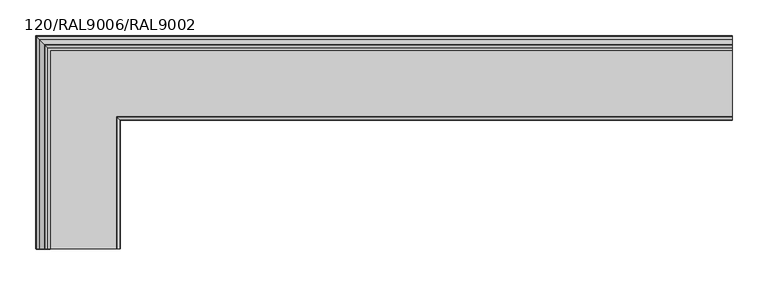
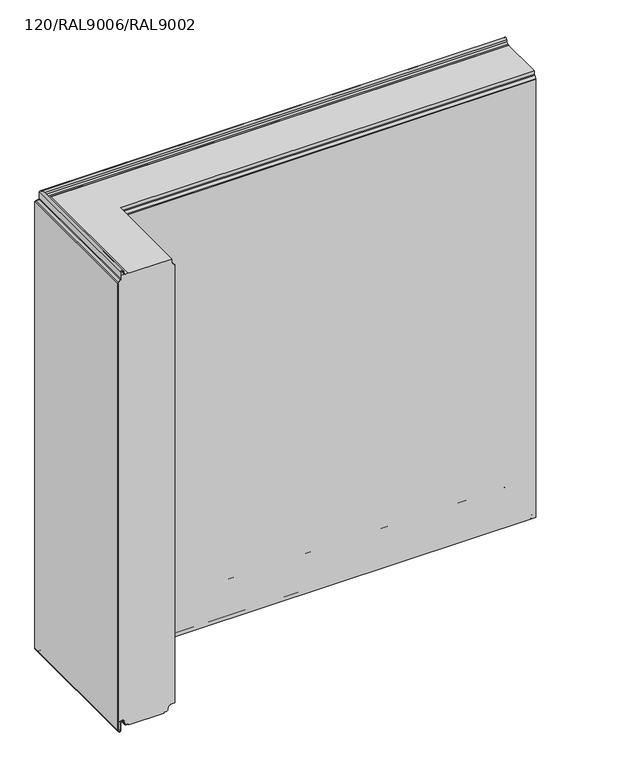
"""IFC4 building model written with IfcOpenShell, lengths in millimetres: plate geometry, TR_C_H_FTV_Corner_Tr_B : 120/RAL9006/RAL9002."""

from ifc_helpers import new_model, si_unit, frame, origin, place, context, project, spatial, polyline, circle_curve, ellipse_curve, source, transform, mapped, element, save
from ifc_brep_helpers import plane_surface, cylinder_surface, revolved_surface, advanced_brep


def plate_120_ral9006_ral9002_347d5f76(model_context):
    return source(origin(), model_context, "Body", "AdvancedBrep", [
        advanced_brep(
        [(490.0, -6.8, 1000.0), (490.0, -113.2, 1000.0), (490.0, -113.2, 992.6000012), (490.0, -114.1665476, 990.2665488), (490.0, -118.5556349, 985.8774615), (490.0, -119.2, 984.3218266), (490.0, -119.2, 14.4000012), (490.0, -110.55, 14.4000012), (490.0, -106.364567, 10.8880059), (490.0, -105.2977418, 4.837739), (490.0, -102.3925589, 2.4000012), (490.0, -96.3, 2.4000012), (490.0, -96.3, 0.0), (490.0, -23.7, 0.0), (490.0, -23.7, 2.4000012), (490.0, -17.6074411, 2.4000012), (490.0, -14.7022582, 4.837739), (490.0, -13.635433, 10.8880059), (490.0, -9.45, 14.4000012), (490.0, -0.8, 14.4000012), (490.0, -0.8, 984.3218266), (490.0, -1.4443651, 985.8774615), (490.0, -5.8334524, 990.2665488), (490.0, -6.8, 992.6000012), (-483.2, -6.8, 1000.0), (-483.2, -300.0, 1000.0), (-376.8, -300.0, 1000.0), (-376.8, -113.2, 1000.0), (-376.8, -113.2, 992.6000012), (-375.8334524, -114.1665476, 990.2665488), (-371.4443651, -118.5556349, 985.8774615), (-370.8, -119.2, 984.3218266), (-370.8, -119.2, 14.4000012), (-370.8, -300.0, 14.4000012), (-379.45, -300.0, 14.4000012), (-379.45, -110.55, 14.4000012), (-383.635433, -106.364567, 10.8880059), (-384.7022582, -105.2977418, 4.837739), (-387.6074411, -102.3925589, 2.4000012), (-387.6074411, -300.0, 2.4000012), (-393.7, -300.0, 2.4000012), (-393.7, -96.3, 2.4000012), (-393.7, -96.3, 0.0), (-393.7, -300.0, 0.0), (-466.3, -300.0, 0.0), (-466.3, -23.7, 0.0), (-466.3, -23.7, 2.4000012), (-466.3, -300.0, 2.4000012), (-472.3925589, -300.0, 2.4000012), (-472.3925589, -17.6074411, 2.4000012), (-475.2977418, -14.7022582, 4.837739), (-476.364567, -13.635433, 10.8880059), (-480.55, -9.45, 14.4000012), (-480.55, -300.0, 14.4000012), (-489.2, -300.0, 14.4000012), (-489.2, -0.8, 14.4000012), (-489.2, -0.8, 984.3218266), (-488.5556349, -1.4443651, 985.8774615), (-484.1665476, -5.8334524, 990.2665488), (-483.2, -6.8, 992.6000012), (-483.2, -300.0, 992.6000012), (-484.1665476, -300.0, 990.2665488), (-488.5556349, -300.0, 985.8774615), (-489.2, -300.0, 984.3218266), (-476.364567, -300.0, 10.8880059), (-475.2977418, -300.0, 4.837739), (-384.7022582, -300.0, 4.837739), (-383.635433, -300.0, 10.8880059), (-370.8, -300.0, 984.3218266), (-371.4443651, -300.0, 985.8774615), (-375.8334524, -300.0, 990.2665488), (-376.8, -300.0, 992.6000012)],
        [
            (0, 1),
            (1, 2),
            (2, 3, circle_curve(frame((490.0, -116.5, 992.6000012), z_axis=(-1.0, 0.0, 0.0), x_axis=(0.0, -1.0, 0.0)), 3.3)),
            (3, 4),
            (4, 5, circle_curve(frame((490.0, -117.0, 984.3218266), z_axis=(1.0, 0.0, 0.0), x_axis=(0.0, -1.0, 0.0)), 2.2)),
            (5, 6),
            (6, 7),
            (7, 8, circle_curve(frame((490.0, -110.55, 10.1500012), z_axis=(-1.0, 0.0, 0.0), x_axis=(0.0, -1.0, 0.0)), 4.25)),
            (8, 9),
            (9, 10, circle_curve(frame((490.0, -102.3925589, 5.3500012), z_axis=(1.0, 0.0, 0.0), x_axis=(0.0, -1.0, 0.0)), 2.95)),
            (10, 11),
            (11, 12),
            (12, 13),
            (13, 14),
            (14, 15),
            (15, 16, circle_curve(frame((490.0, -17.6074411, 5.3500012), z_axis=(1.0, 0.0, 0.0), x_axis=(0.0, -1.0, 0.0)), 2.95)),
            (16, 17),
            (17, 18, circle_curve(frame((490.0, -9.45, 10.1500012), z_axis=(-1.0, 0.0, 0.0), x_axis=(0.0, -1.0, 0.0)), 4.25)),
            (18, 19),
            (19, 20),
            (20, 21, circle_curve(frame((490.0, -3.0, 984.3218266), z_axis=(1.0, 0.0, 0.0), x_axis=(0.0, -1.0, 0.0)), 2.2)),
            (21, 22),
            (22, 23, circle_curve(frame((490.0, -3.5, 992.6000012), z_axis=(-1.0, 0.0, 0.0), x_axis=(0.0, -1.0, 0.0)), 3.3)),
            (23, 0),
            (0, 24),
            (24, 25),
            (25, 26),
            (26, 27),
            (27, 1),
            (27, 28),
            (28, 2),
            (28, 29, ellipse_curve(frame((-373.5, -116.5, 992.6000012), z_axis=(-0.7071067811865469, -0.7071067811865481, 0.0), x_axis=(-0.7071067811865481, 0.7071067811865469, 0.0)), 4.6669048, 3.3)),
            (29, 3),
            (29, 30),
            (30, 4),
            (30, 31, ellipse_curve(frame((-373.0, -117.0, 984.3218266), z_axis=(0.7071067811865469, 0.7071067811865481, 0.0), x_axis=(0.7071067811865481, -0.7071067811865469, 0.0)), 3.1112698, 2.2)),
            (31, 5),
            (31, 32),
            (32, 6),
            (32, 33),
            (33, 34),
            (34, 35),
            (35, 7),
            (35, 36, ellipse_curve(frame((-379.45, -110.55, 10.1500012), z_axis=(-0.7071067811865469, -0.7071067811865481, 0.0), x_axis=(-0.7071067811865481, 0.7071067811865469, 0.0)), 6.0104076, 4.25)),
            (36, 8),
            (36, 37),
            (37, 9),
            (37, 38, ellipse_curve(frame((-387.6074411, -102.3925589, 5.3500012), z_axis=(0.7071067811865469, 0.7071067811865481, 0.0), x_axis=(0.7071067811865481, -0.7071067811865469, 0.0)), 4.17193, 2.95)),
            (38, 10),
            (38, 39),
            (39, 40),
            (40, 41),
            (41, 11),
            (41, 42),
            (42, 12),
            (42, 43),
            (43, 44),
            (44, 45),
            (45, 13),
            (45, 46),
            (46, 14),
            (46, 47),
            (47, 48),
            (48, 49),
            (49, 15),
            (49, 50, ellipse_curve(frame((-472.3925589, -17.6074411, 5.3500012), z_axis=(0.7071067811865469, 0.7071067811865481, 0.0), x_axis=(0.7071067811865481, -0.7071067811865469, 0.0)), 4.17193, 2.95)),
            (50, 16),
            (50, 51),
            (51, 17),
            (51, 52, ellipse_curve(frame((-480.55, -9.45, 10.1500012), z_axis=(-0.7071067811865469, -0.7071067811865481, 0.0), x_axis=(-0.7071067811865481, 0.7071067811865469, 0.0)), 6.0104076, 4.25)),
            (52, 18),
            (52, 53),
            (53, 54),
            (54, 55),
            (55, 19),
            (55, 56),
            (56, 20),
            (56, 57, ellipse_curve(frame((-487.0, -3.0, 984.3218266), z_axis=(0.7071067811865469, 0.7071067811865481, 0.0), x_axis=(0.7071067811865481, -0.7071067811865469, 0.0)), 3.1112698, 2.2)),
            (57, 21),
            (57, 58),
            (58, 22),
            (58, 59, ellipse_curve(frame((-486.5, -3.5, 992.6000012), z_axis=(-0.7071067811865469, -0.7071067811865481, 0.0), x_axis=(-0.7071067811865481, 0.7071067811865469, 0.0)), 4.6669048, 3.3)),
            (59, 23),
            (59, 24),
            (25, 60),
            (60, 61, circle_curve(frame((-486.5, -300.0, 992.6000012), z_axis=(0.0, 1.0, 0.0), x_axis=(1.0, 0.0, 0.0)), 3.3)),
            (61, 62),
            (62, 63, circle_curve(frame((-487.0, -300.0, 984.3218266), z_axis=(0.0, -1.0, 0.0), x_axis=(1.0, 0.0, 0.0)), 2.2)),
            (63, 54),
            (53, 64, circle_curve(frame((-480.55, -300.0, 10.1500012), z_axis=(0.0, 1.0, 0.0), x_axis=(1.0, 0.0, 0.0)), 4.25)),
            (64, 65),
            (65, 48, circle_curve(frame((-472.3925589, -300.0, 5.3500012), z_axis=(0.0, -1.0, 0.0), x_axis=(1.0, 0.0, 0.0)), 2.95)),
            (47, 44),
            (43, 40),
            (39, 66, circle_curve(frame((-387.6074411, -300.0, 5.3500012), z_axis=(0.0, -1.0, 0.0), x_axis=(1.0, 0.0, 0.0)), 2.95)),
            (66, 67),
            (67, 34, circle_curve(frame((-379.45, -300.0, 10.1500012), z_axis=(0.0, 1.0, 0.0), x_axis=(1.0, 0.0, 0.0)), 4.25)),
            (33, 68),
            (68, 69, circle_curve(frame((-373.0, -300.0, 984.3218266), z_axis=(0.0, -1.0, 0.0), x_axis=(1.0, 0.0, 0.0)), 2.2)),
            (69, 70),
            (70, 71, circle_curve(frame((-373.5, -300.0, 992.6000012), z_axis=(0.0, 1.0, 0.0), x_axis=(1.0, 0.0, 0.0)), 3.3)),
            (71, 26),
            (71, 28),
            (70, 29),
            (69, 30),
            (68, 31),
            (67, 36),
            (66, 37),
            (65, 50),
            (64, 51),
            (63, 56),
            (62, 57),
            (61, 58),
            (60, 59),
        ],
        [
            plane_surface(frame((490.0, 0.0, 0.0), z_axis=(1.0, 0.0, 0.0), x_axis=(0.0, 0.0, 1.0))),
            plane_surface(frame((490.0, -6.8, 1000.0), z_axis=(0.0, 0.0, 1.0), x_axis=(-1.0, 0.0, 0.0))),
            plane_surface(frame((490.0, -113.2, 1000.0), z_axis=(0.0, -1.0, 0.0), x_axis=(-1.0, 0.0, 0.0))),
            revolved_surface(polyline([(-376.800000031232, -119.8, 992.6000012), (490.0, -119.8, 992.6000012)]), (490.0, -116.5, 992.6000012), (-1.0, 0.0, 0.0)),
            plane_surface(frame((490.0, -114.1665476, 990.2665488), z_axis=(0.0, -0.707106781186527, 0.707106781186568), x_axis=(-1.0, 0.0, 0.0))),
            cylinder_surface(frame((490.0, -117.0, 984.3218266), z_axis=(1.0, 0.0, 0.0), x_axis=(0.0, -1.0, 0.0)), 2.2),
            plane_surface(frame((490.0, -119.2, 984.3218266), z_axis=(0.0, -1.0, 0.0), x_axis=(-1.0, 0.0, 0.0))),
            plane_surface(frame((490.0, -119.2, 14.4000012), z_axis=(0.0, 0.0, -1.0), x_axis=(-1.0, 0.0, 0.0))),
            revolved_surface(polyline([(-383.6999999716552, -114.8, 10.1500012), (490.0, -114.8, 10.1500012)]), (490.0, -110.55, 10.1500012), (-1.0, 0.0, 0.0)),
            plane_surface(frame((490.0, -106.364567, 10.8880059), z_axis=(0.0, -0.9848077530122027, -0.17364817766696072), x_axis=(-1.0, 0.0, 0.0))),
            cylinder_surface(frame((490.0, -102.3925589, 5.3500012), z_axis=(1.0, 0.0, 0.0), x_axis=(0.0, -1.0, 0.0)), 2.95),
            plane_surface(frame((490.0, -102.3925589, 2.4000012), z_axis=(0.0, 0.0, -1.0), x_axis=(-1.0, 0.0, 0.0))),
            plane_surface(frame((490.0, -96.3, 2.4000012), z_axis=(0.0, -1.0, 0.0), x_axis=(-1.0, 0.0, 0.0))),
            plane_surface(frame((490.0, -96.3, 0.0), z_axis=(0.0, 0.0, -1.0), x_axis=(-1.0, 0.0, 0.0))),
            plane_surface(frame((490.0, -23.7, 0.0), z_axis=(0.0, 1.0, 0.0), x_axis=(-1.0, 0.0, 0.0))),
            plane_surface(frame((490.0, -23.7, 2.4000012), z_axis=(0.0, 0.0, -1.0), x_axis=(-1.0, 0.0, 0.0))),
            cylinder_surface(frame((490.0, -17.6074411, 5.3500012), z_axis=(1.0, 0.0, 0.0), x_axis=(0.0, -1.0, 0.0)), 2.95),
            plane_surface(frame((490.0, -14.7022582, 4.837739), z_axis=(0.0, 0.9848077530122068, -0.1736481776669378), x_axis=(-1.0, 0.0, 0.0))),
            revolved_surface(polyline([(-484.7999999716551, -13.7, 10.1500012), (490.0, -13.7, 10.1500012)]), (490.0, -9.45, 10.1500012), (-1.0, 0.0, 0.0)),
            plane_surface(frame((490.0, -9.45, 14.4000012), z_axis=(0.0, 0.0, -1.0), x_axis=(-1.0, 0.0, 0.0))),
            plane_surface(frame((490.0, -0.8, 14.4000012), z_axis=(0.0, 1.0, 0.0), x_axis=(-1.0, 0.0, 0.0))),
            cylinder_surface(frame((490.0, -3.0, 984.3218266), z_axis=(1.0, 0.0, 0.0), x_axis=(0.0, -1.0, 0.0)), 2.2),
            plane_surface(frame((490.0, -1.4443651, 985.8774615), z_axis=(0.0, 0.7071067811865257, 0.7071067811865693), x_axis=(-1.0, 0.0, 0.0))),
            revolved_surface(polyline([(-489.800000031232, -6.8, 992.6000012), (490.0, -6.8, 992.6000012)]), (490.0, -3.5, 992.6000012), (-1.0, 0.0, 0.0)),
            plane_surface(frame((490.0, -6.8, 992.6000012), z_axis=(0.0, 1.0, 0.0), x_axis=(-1.0, 0.0, 0.0))),
            plane_surface(frame((-490.0, -300.0, 0.0), z_axis=(0.0, -1.0, 0.0), x_axis=(0.0, 0.0, 1.0))),
            plane_surface(frame((-376.8, -113.2, 1000.0), z_axis=(1.0, 0.0, 0.0), x_axis=(0.0, -1.0, 0.0))),
            revolved_surface(polyline([(-370.2, -300.0, 992.6000012), (-370.2, -113.19999996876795, 992.6000012)]), (-373.5, 0.0, 992.6000012), (0.0, -1.0, 0.0)),
            plane_surface(frame((-375.8334524, -114.1665476, 990.2665488), z_axis=(0.707106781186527, 0.0, 0.707106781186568), x_axis=(0.0, -1.0, 0.0))),
            cylinder_surface(frame((-373.0, 0.0, 984.3218266), z_axis=(0.0, 1.0, 0.0), x_axis=(1.0, 0.0, 0.0)), 2.2),
            plane_surface(frame((-370.8, -119.2, 984.3218266), z_axis=(1.0, 0.0, 0.0), x_axis=(0.0, -1.0, 0.0))),
            revolved_surface(polyline([(-375.2, -300.0, 10.1500012), (-375.2, -106.30000002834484, 10.1500012)]), (-379.45, 0.0, 10.1500012), (0.0, -1.0, 0.0)),
            plane_surface(frame((-383.635433, -106.364567, 10.8880059), z_axis=(0.9848077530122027, 0.0, -0.17364817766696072), x_axis=(0.0, -1.0, 0.0))),
            cylinder_surface(frame((-387.6074411, 0.0, 5.3500012), z_axis=(0.0, 1.0, 0.0), x_axis=(1.0, 0.0, 0.0)), 2.95),
            plane_surface(frame((-393.7, -96.3, 2.4000012), z_axis=(1.0, 0.0, 0.0), x_axis=(0.0, -1.0, 0.0))),
            plane_surface(frame((-466.3, -23.7, 0.0), z_axis=(-1.0, 0.0, 0.0), x_axis=(0.0, -1.0, 0.0))),
            cylinder_surface(frame((-472.3925589, 0.0, 5.3500012), z_axis=(0.0, 1.0, 0.0), x_axis=(1.0, 0.0, 0.0)), 2.95),
            plane_surface(frame((-475.2977418, -14.7022582, 4.837739), z_axis=(-0.9848077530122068, 0.0, -0.1736481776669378), x_axis=(0.0, -1.0, 0.0))),
            revolved_surface(polyline([(-476.3, -300.0, 10.1500012), (-476.3, -5.200000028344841, 10.1500012)]), (-480.55, 0.0, 10.1500012), (0.0, -1.0, 0.0)),
            plane_surface(frame((-489.2, -0.8, 14.4000012), z_axis=(-1.0, 0.0, 0.0), x_axis=(0.0, -1.0, 0.0))),
            cylinder_surface(frame((-487.0, 0.0, 984.3218266), z_axis=(0.0, 1.0, 0.0), x_axis=(1.0, 0.0, 0.0)), 2.2),
            plane_surface(frame((-488.5556349, -1.4443651, 985.8774615), z_axis=(-0.7071067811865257, 0.0, 0.7071067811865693), x_axis=(0.0, -1.0, 0.0))),
            revolved_surface(polyline([(-483.2, -300.0, 992.6000012), (-483.2, -0.19999996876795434, 992.6000012)]), (-486.5, 0.0, 992.6000012), (0.0, -1.0, 0.0)),
            plane_surface(frame((-483.2, -6.8, 992.6000012), z_axis=(-1.0, 0.0, 0.0), x_axis=(0.0, -1.0, 0.0))),
        ],
        [
            (0, [[1, 2, 3, 4, 5, 6, 7, 8, 9, 10, 11, 12, 13, 14, 15, 16, 17, 18, 19, 20, 21, 22, 23, 24]]),
            (1, [[-1, 25, 26, 27, 28, 29]]),
            (2, [[-2, -29, 30, 31]]),
            (3, [[-3, -31, 32, 33]]),
            (4, [[-4, -33, 34, 35]]),
            (5, [[-5, -35, 36, 37]]),
            (6, [[-6, -37, 38, 39]]),
            (7, [[-7, -39, 40, 41, 42, 43]]),
            (8, [[-8, -43, 44, 45]]),
            (9, [[-9, -45, 46, 47]]),
            (10, [[-10, -47, 48, 49]]),
            (11, [[-11, -49, 50, 51, 52, 53]]),
            (12, [[-12, -53, 54, 55]]),
            (13, [[-13, -55, 56, 57, 58, 59]]),
            (14, [[-14, -59, 60, 61]]),
            (15, [[-15, -61, 62, 63, 64, 65]]),
            (16, [[-16, -65, 66, 67]]),
            (17, [[-17, -67, 68, 69]]),
            (18, [[-18, -69, 70, 71]]),
            (19, [[-19, -71, 72, 73, 74, 75]]),
            (20, [[-20, -75, 76, 77]]),
            (21, [[-21, -77, 78, 79]]),
            (22, [[-22, -79, 80, 81]]),
            (23, [[-23, -81, 82, 83]]),
            (24, [[-24, -83, 84, -25]]),
            (25, [[85, 86, 87, 88, 89, -73, 90, 91, 92, -63, 93, -57, 94, -51, 95, 96, 97, -41, 98, 99, 100, 101, 102, -27]]),
            (26, [[-30, -28, -102, 103]]),
            (27, [[-32, -103, -101, 104]]),
            (28, [[-34, -104, -100, 105]]),
            (29, [[-36, -105, -99, 106]]),
            (30, [[-38, -106, -98, -40]]),
            (31, [[-44, -42, -97, 107]]),
            (32, [[-46, -107, -96, 108]]),
            (33, [[-48, -108, -95, -50]]),
            (34, [[-54, -52, -94, -56]]),
            (35, [[-60, -58, -93, -62]]),
            (36, [[-66, -64, -92, 109]]),
            (37, [[-68, -109, -91, 110]]),
            (38, [[-70, -110, -90, -72]]),
            (39, [[-76, -74, -89, 111]]),
            (40, [[-78, -111, -88, 112]]),
            (41, [[-80, -112, -87, 113]]),
            (42, [[-82, -113, -86, 114]]),
            (43, [[-84, -114, -85, -26]]),
        ],
    ),
        advanced_brep(
        [(490.0, -16.8869672, 999.8000012), (490.0, -12.4060919, 1003.559902), (490.0, -11.662779, 1007.7754392), (490.0, -6.8, 1007.3500012), (490.0, -6.8, 992.6000012), (490.0, -5.8334524, 990.2665488), (490.0, -1.4443651, 985.8774615), (490.0, -0.8, 984.3218266), (490.0, -0.8, -5.018628), (490.0, -1.3711418, -6.3974862), (490.0, -3.2368272, -8.2631716), (490.0, -5.2, -7.4499988), (490.0, -5.2, 10.1500012), (490.0, -13.635433, 10.8880059), (490.0, -14.7022582, 4.837739), (490.0, -17.6074411, 2.4000012), (490.0, -21.0, 2.4000012), (490.0, -21.0, 1.6000012), (490.0, -17.6074411, 1.6000012), (490.0, -13.914412, 4.6988205), (490.0, -12.8475867, 10.7490874), (490.0, -6.0, 10.1500012), (490.0, -6.0, -7.4499988), (490.0, -2.6711418, -8.8288571), (490.0, -0.8054564, -6.9631716), (490.0, 0.0, -5.018628), (490.0, 0.0, 984.3218266), (490.0, -0.8786797, 986.4431469), (490.0, -5.267767, 990.8322342), (490.0, -6.0, 992.6000012), (490.0, -6.0, 1007.3500012), (490.0, -12.4506252, 1007.9143577), (490.0, -13.1939382, 1003.6988205), (490.0, -16.8869672, 1000.6000012), (490.0, -21.0, 1000.6000012), (490.0, -21.0, 999.8000012), (-473.1130328, -16.8869672, 999.8000012), (-477.5939081, -12.4060919, 1003.559902), (-478.337221, -11.662779, 1007.7754392), (-483.2, -6.8, 1007.3500012), (-483.2, -6.8, 992.6000012), (-484.1665476, -5.8334524, 990.2665488), (-488.5556349, -1.4443651, 985.8774615), (-489.2, -0.8, 984.3218266), (-489.2, -0.8, -5.018628), (-488.6288582, -1.3711418, -6.3974862), (-486.7631728, -3.2368272, -8.2631716), (-484.8, -5.2, -7.4499988), (-484.8, -5.2, 10.1500012), (-476.364567, -13.635433, 10.8880059), (-475.2977418, -14.7022582, 4.837739), (-472.3925589, -17.6074411, 2.4000012), (-472.3925589, -300.0, 2.4000012), (-469.0, -300.0, 2.4000012), (-469.0, -21.0, 2.4000012), (-469.0, -21.0, 1.6000012), (-469.0, -300.0, 1.6000012), (-472.3925589, -300.0, 1.6000012), (-472.3925589, -17.6074411, 1.6000012), (-476.085588, -13.914412, 4.6988205), (-477.1524133, -12.8475867, 10.7490874), (-484.0, -6.0, 10.1500012), (-484.0, -6.0, -7.4499988), (-487.3288582, -2.6711418, -8.8288571), (-489.1945436, -0.8054564, -6.9631716), (-490.0, 0.0, -5.018628), (-490.0, 0.0, 984.3218266), (-489.1213203, -0.8786797, 986.4431469), (-484.732233, -5.267767, 990.8322342), (-484.0, -6.0, 992.6000012), (-484.0, -6.0, 1007.3500012), (-477.5493748, -12.4506252, 1007.9143577), (-476.8060618, -13.1939382, 1003.6988205), (-473.1130328, -16.8869672, 1000.6000012), (-473.1130328, -300.0, 1000.6000012), (-469.0, -300.0, 1000.6000012), (-469.0, -21.0, 1000.6000012), (-469.0, -21.0, 999.8000012), (-469.0, -300.0, 999.8000012), (-473.1130328, -300.0, 999.8000012), (-476.8060618, -300.0, 1003.6988205), (-477.5493748, -300.0, 1007.9143577), (-484.0, -300.0, 1007.3500012), (-484.0, -300.0, 992.6000012), (-484.732233, -300.0, 990.8322342), (-489.1213203, -300.0, 986.4431469), (-490.0, -300.0, 984.3218266), (-490.0, -300.0, -5.018628), (-489.1945436, -300.0, -6.9631716), (-487.3288582, -300.0, -8.8288571), (-484.0, -300.0, -7.4499988), (-484.0, -300.0, 10.1500012), (-477.1524133, -300.0, 10.7490874), (-476.085588, -300.0, 4.6988205), (-475.2977418, -300.0, 4.837739), (-476.364567, -300.0, 10.8880059), (-484.8, -300.0, 10.1500012), (-484.8, -300.0, -7.4499988), (-486.7631728, -300.0, -8.2631716), (-488.6288582, -300.0, -6.3974862), (-489.2, -300.0, -5.018628), (-489.2, -300.0, 984.3218266), (-488.5556349, -300.0, 985.8774615), (-484.1665476, -300.0, 990.2665488), (-483.2, -300.0, 992.6000012), (-483.2, -300.0, 1007.3500012), (-478.337221, -300.0, 1007.7754392), (-477.5939081, -300.0, 1003.559902)],
        [
            (0, 1, circle_curve(frame((490.0, -16.8869672, 1004.3500012), z_axis=(1.0, 0.0, 0.0), x_axis=(0.0, -1.0, 0.0)), 4.55)),
            (1, 2),
            (2, 3, circle_curve(frame((490.0, -9.25, 1007.3500012), z_axis=(-1.0, 0.0, 0.0), x_axis=(0.0, -1.0, 0.0)), 2.45)),
            (3, 4),
            (4, 5, circle_curve(frame((490.0, -3.5, 992.6000012), z_axis=(1.0, 0.0, 0.0), x_axis=(0.0, -1.0, 0.0)), 3.3)),
            (5, 6),
            (6, 7, circle_curve(frame((490.0, -3.0, 984.3218266), z_axis=(-1.0, 0.0, 0.0), x_axis=(0.0, -1.0, 0.0)), 2.2)),
            (7, 8),
            (8, 9, circle_curve(frame((490.0, -2.75, -5.018628), z_axis=(-1.0, 0.0, 0.0), x_axis=(0.0, -1.0, 0.0)), 1.95)),
            (9, 10),
            (10, 11, circle_curve(frame((490.0, -4.05, -7.4499988), z_axis=(-1.0, 0.0, 0.0), x_axis=(0.0, -1.0, 0.0)), 1.15)),
            (11, 12),
            (12, 13, circle_curve(frame((490.0, -9.45, 10.1500012), z_axis=(1.0, 0.0, 0.0), x_axis=(0.0, -1.0, 0.0)), 4.25)),
            (13, 14),
            (14, 15, circle_curve(frame((490.0, -17.6074411, 5.3500012), z_axis=(-1.0, 0.0, 0.0), x_axis=(0.0, -1.0, 0.0)), 2.95)),
            (15, 16),
            (16, 17),
            (17, 18),
            (18, 19, circle_curve(frame((490.0, -17.6074411, 5.3500012), z_axis=(1.0, 0.0, 0.0), x_axis=(0.0, -1.0, 0.0)), 3.75)),
            (19, 20),
            (20, 21, circle_curve(frame((490.0, -9.45, 10.1500012), z_axis=(-1.0, 0.0, 0.0), x_axis=(0.0, -1.0, 0.0)), 3.45)),
            (21, 22),
            (22, 23, circle_curve(frame((490.0, -4.05, -7.4499988), z_axis=(1.0, 0.0, 0.0), x_axis=(0.0, -1.0, 0.0)), 1.95)),
            (23, 24),
            (24, 25, circle_curve(frame((490.0, -2.75, -5.018628), z_axis=(1.0, 0.0, 0.0), x_axis=(0.0, -1.0, 0.0)), 2.75)),
            (25, 26),
            (26, 27, circle_curve(frame((490.0, -3.0, 984.3218266), z_axis=(1.0, 0.0, 0.0), x_axis=(0.0, -1.0, 0.0)), 3.0)),
            (27, 28),
            (28, 29, circle_curve(frame((490.0, -3.5, 992.6000012), z_axis=(-1.0, 0.0, 0.0), x_axis=(0.0, -1.0, 0.0)), 2.5)),
            (29, 30),
            (30, 31, circle_curve(frame((490.0, -9.25, 1007.3500012), z_axis=(1.0, 0.0, 0.0), x_axis=(0.0, -1.0, 0.0)), 3.25)),
            (31, 32),
            (32, 33, circle_curve(frame((490.0, -16.8869672, 1004.3500012), z_axis=(-1.0, 0.0, 0.0), x_axis=(0.0, -1.0, 0.0)), 3.75)),
            (33, 34),
            (34, 35),
            (35, 0),
            (0, 36),
            (36, 37, ellipse_curve(frame((-473.1130328, -16.8869672, 1004.3500012), z_axis=(0.7071067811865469, 0.7071067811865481, 0.0), x_axis=(0.7071067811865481, -0.7071067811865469, 0.0)), 6.4346717, 4.55)),
            (37, 1),
            (37, 38),
            (38, 2),
            (38, 39, ellipse_curve(frame((-480.75, -9.25, 1007.3500012), z_axis=(-0.7071067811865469, -0.7071067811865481, 0.0), x_axis=(-0.7071067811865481, 0.7071067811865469, 0.0)), 3.4648232, 2.45)),
            (39, 3),
            (39, 40),
            (40, 4),
            (40, 41, ellipse_curve(frame((-486.5, -3.5, 992.6000012), z_axis=(0.7071067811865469, 0.7071067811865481, 0.0), x_axis=(0.7071067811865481, -0.7071067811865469, 0.0)), 4.6669048, 3.3)),
            (41, 5),
            (41, 42),
            (42, 6),
            (42, 43, ellipse_curve(frame((-487.0, -3.0, 984.3218266), z_axis=(-0.7071067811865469, -0.7071067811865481, 0.0), x_axis=(-0.7071067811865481, 0.7071067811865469, 0.0)), 3.1112698, 2.2)),
            (43, 7),
            (43, 44),
            (44, 8),
            (44, 45, ellipse_curve(frame((-487.25, -2.75, -5.018628), z_axis=(-0.7071067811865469, -0.7071067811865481, 0.0), x_axis=(-0.7071067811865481, 0.7071067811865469, 0.0)), 2.7577164, 1.95)),
            (45, 9),
            (45, 46),
            (46, 10),
            (46, 47, ellipse_curve(frame((-485.95, -4.05, -7.4499988), z_axis=(-0.7071067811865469, -0.7071067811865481, 0.0), x_axis=(-0.7071067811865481, 0.7071067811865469, 0.0)), 1.6263456, 1.15)),
            (47, 11),
            (47, 48),
            (48, 12),
            (48, 49, ellipse_curve(frame((-480.55, -9.45, 10.1500012), z_axis=(0.7071067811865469, 0.7071067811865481, 0.0), x_axis=(0.7071067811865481, -0.7071067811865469, 0.0)), 6.0104076, 4.25)),
            (49, 13),
            (49, 50),
            (50, 14),
            (50, 51, ellipse_curve(frame((-472.3925589, -17.6074411, 5.3500012), z_axis=(-0.7071067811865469, -0.7071067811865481, 0.0), x_axis=(-0.7071067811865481, 0.7071067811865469, 0.0)), 4.17193, 2.95)),
            (51, 15),
            (51, 52),
            (52, 53),
            (53, 54),
            (54, 16),
            (54, 55),
            (55, 17),
            (55, 56),
            (56, 57),
            (57, 58),
            (58, 18),
            (58, 59, ellipse_curve(frame((-472.3925589, -17.6074411, 5.3500012), z_axis=(0.7071067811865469, 0.7071067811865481, 0.0), x_axis=(0.7071067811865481, -0.7071067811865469, 0.0)), 5.3033009, 3.75)),
            (59, 19),
            (59, 60),
            (60, 20),
            (60, 61, ellipse_curve(frame((-480.55, -9.45, 10.1500012), z_axis=(-0.7071067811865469, -0.7071067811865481, 0.0), x_axis=(-0.7071067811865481, 0.7071067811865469, 0.0)), 4.8790368, 3.45)),
            (61, 21),
            (61, 62),
            (62, 22),
            (62, 63, ellipse_curve(frame((-485.95, -4.05, -7.4499988), z_axis=(0.7071067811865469, 0.7071067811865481, 0.0), x_axis=(0.7071067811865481, -0.7071067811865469, 0.0)), 2.7577164, 1.95)),
            (63, 23),
            (63, 64),
            (64, 24),
            (64, 65, ellipse_curve(frame((-487.25, -2.75, -5.018628), z_axis=(0.7071067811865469, 0.7071067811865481, 0.0), x_axis=(0.7071067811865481, -0.7071067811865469, 0.0)), 3.8890873, 2.75)),
            (65, 25),
            (65, 66),
            (66, 26),
            (66, 67, ellipse_curve(frame((-487.0, -3.0, 984.3218266), z_axis=(0.7071067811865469, 0.7071067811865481, 0.0), x_axis=(0.7071067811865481, -0.7071067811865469, 0.0)), 4.2426407, 3.0)),
            (67, 27),
            (67, 68),
            (68, 28),
            (68, 69, ellipse_curve(frame((-486.5, -3.5, 992.6000012), z_axis=(-0.7071067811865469, -0.7071067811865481, 0.0), x_axis=(-0.7071067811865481, 0.7071067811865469, 0.0)), 3.5355339, 2.5)),
            (69, 29),
            (69, 70),
            (70, 30),
            (70, 71, ellipse_curve(frame((-480.75, -9.25, 1007.3500012), z_axis=(0.7071067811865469, 0.7071067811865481, 0.0), x_axis=(0.7071067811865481, -0.7071067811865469, 0.0)), 4.5961941, 3.25)),
            (71, 31),
            (71, 72),
            (72, 32),
            (72, 73, ellipse_curve(frame((-473.1130328, -16.8869672, 1004.3500012), z_axis=(-0.7071067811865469, -0.7071067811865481, 0.0), x_axis=(-0.7071067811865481, 0.7071067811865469, 0.0)), 5.3033009, 3.75)),
            (73, 33),
            (73, 74),
            (74, 75),
            (75, 76),
            (76, 34),
            (76, 77),
            (77, 35),
            (77, 78),
            (78, 79),
            (79, 36),
            (78, 75),
            (74, 80, circle_curve(frame((-473.1130328, -300.0, 1004.3500012), z_axis=(0.0, 1.0, 0.0), x_axis=(1.0, 0.0, 0.0)), 3.75)),
            (80, 81),
            (81, 82, circle_curve(frame((-480.75, -300.0, 1007.3500012), z_axis=(0.0, -1.0, 0.0), x_axis=(1.0, 0.0, 0.0)), 3.25)),
            (82, 83),
            (83, 84, circle_curve(frame((-486.5, -300.0, 992.6000012), z_axis=(0.0, 1.0, 0.0), x_axis=(1.0, 0.0, 0.0)), 2.5)),
            (84, 85),
            (85, 86, circle_curve(frame((-487.0, -300.0, 984.3218266), z_axis=(0.0, -1.0, 0.0), x_axis=(1.0, 0.0, 0.0)), 3.0)),
            (86, 87),
            (87, 88, circle_curve(frame((-487.25, -300.0, -5.018628), z_axis=(0.0, -1.0, 0.0), x_axis=(1.0, 0.0, 0.0)), 2.75)),
            (88, 89),
            (89, 90, circle_curve(frame((-485.95, -300.0, -7.4499988), z_axis=(0.0, -1.0, 0.0), x_axis=(1.0, 0.0, 0.0)), 1.95)),
            (90, 91),
            (91, 92, circle_curve(frame((-480.55, -300.0, 10.1500012), z_axis=(0.0, 1.0, 0.0), x_axis=(1.0, 0.0, 0.0)), 3.45)),
            (92, 93),
            (93, 57, circle_curve(frame((-472.3925589, -300.0, 5.3500012), z_axis=(0.0, -1.0, 0.0), x_axis=(1.0, 0.0, 0.0)), 3.75)),
            (56, 53),
            (52, 94, circle_curve(frame((-472.3925589, -300.0, 5.3500012), z_axis=(0.0, 1.0, 0.0), x_axis=(1.0, 0.0, 0.0)), 2.95)),
            (94, 95),
            (95, 96, circle_curve(frame((-480.55, -300.0, 10.1500012), z_axis=(0.0, -1.0, 0.0), x_axis=(1.0, 0.0, 0.0)), 4.25)),
            (96, 97),
            (97, 98, circle_curve(frame((-485.95, -300.0, -7.4499988), z_axis=(0.0, 1.0, 0.0), x_axis=(1.0, 0.0, 0.0)), 1.15)),
            (98, 99),
            (99, 100, circle_curve(frame((-487.25, -300.0, -5.018628), z_axis=(0.0, 1.0, 0.0), x_axis=(1.0, 0.0, 0.0)), 1.95)),
            (100, 101),
            (101, 102, circle_curve(frame((-487.0, -300.0, 984.3218266), z_axis=(0.0, 1.0, 0.0), x_axis=(1.0, 0.0, 0.0)), 2.2)),
            (102, 103),
            (103, 104, circle_curve(frame((-486.5, -300.0, 992.6000012), z_axis=(0.0, -1.0, 0.0), x_axis=(1.0, 0.0, 0.0)), 3.3)),
            (104, 105),
            (105, 106, circle_curve(frame((-480.75, -300.0, 1007.3500012), z_axis=(0.0, 1.0, 0.0), x_axis=(1.0, 0.0, 0.0)), 2.45)),
            (106, 107),
            (107, 79, circle_curve(frame((-473.1130328, -300.0, 1004.3500012), z_axis=(0.0, -1.0, 0.0), x_axis=(1.0, 0.0, 0.0)), 4.55)),
            (107, 37),
            (106, 38),
            (105, 39),
            (104, 40),
            (103, 41),
            (102, 42),
            (101, 43),
            (100, 44),
            (99, 45),
            (98, 46),
            (97, 47),
            (96, 48),
            (95, 49),
            (94, 50),
            (93, 59),
            (92, 60),
            (91, 61),
            (90, 62),
            (89, 63),
            (88, 64),
            (87, 65),
            (86, 66),
            (85, 67),
            (84, 68),
            (83, 69),
            (82, 70),
            (81, 71),
            (80, 72),
        ],
        [
            plane_surface(frame((490.0, 0.0, 0.0), z_axis=(1.0, 0.0, 0.0), x_axis=(0.0, 0.0, 1.0))),
            cylinder_surface(frame((490.0, -16.8869672, 1004.3500012), z_axis=(1.0, 0.0, 0.0), x_axis=(0.0, -1.0, 0.0)), 4.55),
            plane_surface(frame((490.0, -12.4060919, 1003.559902), z_axis=(0.0, 0.9848077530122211, -0.1736481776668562), x_axis=(-1.0, 0.0, 0.0))),
            revolved_surface(polyline([(-483.20000000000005, -11.7, 1007.3500012), (490.0, -11.7, 1007.3500012)]), (490.0, -9.25, 1007.3500012), (-1.0, 0.0, 0.0)),
            plane_surface(frame((490.0, -6.8, 1007.3500012), z_axis=(0.0, -1.0, 0.0), x_axis=(-1.0, 0.0, 0.0))),
            cylinder_surface(frame((490.0, -3.5, 992.6000012), z_axis=(1.0, 0.0, 0.0), x_axis=(0.0, -1.0, 0.0)), 3.3),
            plane_surface(frame((490.0, -5.8334524, 990.2665488), z_axis=(0.0, -0.7071067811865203, -0.7071067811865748), x_axis=(-1.0, 0.0, 0.0))),
            revolved_surface(polyline([(-489.20000000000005, -5.2, 984.3218266), (490.0, -5.2, 984.3218266)]), (490.0, -3.0, 984.3218266), (-1.0, 0.0, 0.0)),
            plane_surface(frame((490.0, -0.8, 984.3218266), z_axis=(0.0, -1.0, 0.0), x_axis=(-1.0, 0.0, 0.0))),
            revolved_surface(polyline([(-489.20000000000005, -4.7, -5.018628), (490.0, -4.7, -5.018628)]), (490.0, -2.75, -5.018628), (-1.0, 0.0, 0.0)),
            plane_surface(frame((490.0, -1.3711418, -6.3974862), z_axis=(0.0, -0.7071067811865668, 0.7071067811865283), x_axis=(-1.0, 0.0, 0.0))),
            revolved_surface(polyline([(-487.100000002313, -5.199999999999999, -7.4499988), (490.0, -5.199999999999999, -7.4499988)]), (490.0, -4.05, -7.4499988), (-1.0, 0.0, 0.0)),
            plane_surface(frame((490.0, -5.2, -7.4499988), z_axis=(0.0, 1.0, 0.0), x_axis=(-1.0, 0.0, 0.0))),
            cylinder_surface(frame((490.0, -9.45, 10.1500012), z_axis=(1.0, 0.0, 0.0), x_axis=(0.0, -1.0, 0.0)), 4.25),
            plane_surface(frame((490.0, -13.635433, 10.8880059), z_axis=(0.0, -0.9848077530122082, 0.17364817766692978), x_axis=(-1.0, 0.0, 0.0))),
            revolved_surface(polyline([(-475.34255889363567, -20.5574411, 5.3500012), (490.0, -20.5574411, 5.3500012)]), (490.0, -17.6074411, 5.3500012), (-1.0, 0.0, 0.0)),
            plane_surface(frame((490.0, -17.6074411, 2.4000012), z_axis=(0.0, 0.0, 1.0), x_axis=(-1.0, 0.0, 0.0))),
            plane_surface(frame((490.0, -21.0, 2.4000012), z_axis=(0.0, -1.0, 0.0), x_axis=(-1.0, 0.0, 0.0))),
            plane_surface(frame((490.0, -21.0, 1.6000012), z_axis=(0.0, 0.0, -1.0), x_axis=(-1.0, 0.0, 0.0))),
            cylinder_surface(frame((490.0, -17.6074411, 5.3500012), z_axis=(1.0, 0.0, 0.0), x_axis=(0.0, -1.0, 0.0)), 3.75),
            plane_surface(frame((490.0, -13.914412, 4.6988205), z_axis=(0.0, 0.9848077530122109, -0.17364817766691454), x_axis=(-1.0, 0.0, 0.0))),
            revolved_surface(polyline([(-484.00000000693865, -12.899999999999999, 10.1500012), (490.0, -12.899999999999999, 10.1500012)]), (490.0, -9.45, 10.1500012), (-1.0, 0.0, 0.0)),
            plane_surface(frame((490.0, -6.0, 10.1500012), z_axis=(0.0, -1.0, 0.0), x_axis=(-1.0, 0.0, 0.0))),
            cylinder_surface(frame((490.0, -4.05, -7.4499988), z_axis=(1.0, 0.0, 0.0), x_axis=(0.0, -1.0, 0.0)), 1.95),
            plane_surface(frame((490.0, -2.6711418, -8.8288571), z_axis=(0.0, 0.7071067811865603, -0.7071067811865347), x_axis=(-1.0, 0.0, 0.0))),
            cylinder_surface(frame((490.0, -2.75, -5.018628), z_axis=(1.0, 0.0, 0.0), x_axis=(0.0, -1.0, 0.0)), 2.75),
            plane_surface(frame((490.0, 0.0, -5.018628), z_axis=(0.0, 1.0, 0.0), x_axis=(-1.0, 0.0, 0.0))),
            cylinder_surface(frame((490.0, -3.0, 984.3218266), z_axis=(1.0, 0.0, 0.0), x_axis=(0.0, -1.0, 0.0)), 3.0),
            plane_surface(frame((490.0, -0.8786797, 986.4431469), z_axis=(0.0, 0.7071067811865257, 0.7071067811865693), x_axis=(-1.0, 0.0, 0.0))),
            revolved_surface(polyline([(-488.99999999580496, -6.0, 992.6000012), (490.0, -6.0, 992.6000012)]), (490.0, -3.5, 992.6000012), (-1.0, 0.0, 0.0)),
            plane_surface(frame((490.0, -6.0, 992.6000012), z_axis=(0.0, 1.0, 0.0), x_axis=(-1.0, 0.0, 0.0))),
            cylinder_surface(frame((490.0, -9.25, 1007.3500012), z_axis=(1.0, 0.0, 0.0), x_axis=(0.0, -1.0, 0.0)), 3.25),
            plane_surface(frame((490.0, -12.4506252, 1007.9143577), z_axis=(0.0, -0.9848077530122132, 0.17364817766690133), x_axis=(-1.0, 0.0, 0.0))),
            revolved_surface(polyline([(-476.8630328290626, -20.6369672, 1004.3500012), (490.0, -20.6369672, 1004.3500012)]), (490.0, -16.8869672, 1004.3500012), (-1.0, 0.0, 0.0)),
            plane_surface(frame((490.0, -16.8869672, 1000.6000012), z_axis=(0.0, 0.0, 1.0), x_axis=(-1.0, 0.0, 0.0))),
            plane_surface(frame((490.0, -21.0, 1000.6000012), z_axis=(0.0, -1.0, 0.0), x_axis=(-1.0, 0.0, 0.0))),
            plane_surface(frame((490.0, -21.0, 999.8000012), z_axis=(0.0, 0.0, -1.0), x_axis=(-1.0, 0.0, 0.0))),
            plane_surface(frame((-490.0, -300.0, 0.0), z_axis=(0.0, -1.0, 0.0), x_axis=(0.0, 0.0, 1.0))),
            cylinder_surface(frame((-473.1130328, 0.0, 1004.3500012), z_axis=(0.0, 1.0, 0.0), x_axis=(1.0, 0.0, 0.0)), 4.55),
            plane_surface(frame((-477.5939081, -12.4060919, 1003.559902), z_axis=(-0.9848077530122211, 0.0, -0.1736481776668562), x_axis=(0.0, -1.0, 0.0))),
            revolved_surface(polyline([(-478.3, -300.0, 1007.3500012), (-478.3, -6.8, 1007.3500012)]), (-480.75, 0.0, 1007.3500012), (0.0, -1.0, 0.0)),
            plane_surface(frame((-483.2, -6.8, 1007.3500012), z_axis=(1.0, 0.0, 0.0), x_axis=(0.0, -1.0, 0.0))),
            cylinder_surface(frame((-486.5, 0.0, 992.6000012), z_axis=(0.0, 1.0, 0.0), x_axis=(1.0, 0.0, 0.0)), 3.3),
            plane_surface(frame((-484.1665476, -5.8334524, 990.2665488), z_axis=(0.7071067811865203, 0.0, -0.7071067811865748), x_axis=(0.0, -1.0, 0.0))),
            revolved_surface(polyline([(-484.8, -300.0, 984.3218266), (-484.8, -0.8, 984.3218266)]), (-487.0, 0.0, 984.3218266), (0.0, -1.0, 0.0)),
            plane_surface(frame((-489.2, -0.8, 984.3218266), z_axis=(1.0, 0.0, 0.0), x_axis=(0.0, -1.0, 0.0))),
            revolved_surface(polyline([(-485.3, -300.0, -5.018628), (-485.3, -0.8, -5.018628)]), (-487.25, 0.0, -5.018628), (0.0, -1.0, 0.0)),
            plane_surface(frame((-488.6288582, -1.3711418, -6.3974862), z_axis=(0.7071067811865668, 0.0, 0.7071067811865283), x_axis=(0.0, -1.0, 0.0))),
            revolved_surface(polyline([(-484.8, -300.0, -7.4499988), (-484.8, -2.8999999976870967, -7.4499988)]), (-485.95, 0.0, -7.4499988), (0.0, -1.0, 0.0)),
            plane_surface(frame((-484.8, -5.2, -7.4499988), z_axis=(-1.0, 0.0, 0.0), x_axis=(0.0, -1.0, 0.0))),
            cylinder_surface(frame((-480.55, 0.0, 10.1500012), z_axis=(0.0, 1.0, 0.0), x_axis=(1.0, 0.0, 0.0)), 4.25),
            plane_surface(frame((-476.364567, -13.635433, 10.8880059), z_axis=(0.9848077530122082, 0.0, 0.17364817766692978), x_axis=(0.0, -1.0, 0.0))),
            revolved_surface(polyline([(-469.4425589, -300.0, 5.3500012), (-469.4425589, -14.65744110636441, 5.3500012)]), (-472.3925589, 0.0, 5.3500012), (0.0, -1.0, 0.0)),
            plane_surface(frame((-469.0, -21.0, 2.4000012), z_axis=(1.0, 0.0, 0.0), x_axis=(0.0, -1.0, 0.0))),
            cylinder_surface(frame((-472.3925589, 0.0, 5.3500012), z_axis=(0.0, 1.0, 0.0), x_axis=(1.0, 0.0, 0.0)), 3.75),
            plane_surface(frame((-476.085588, -13.914412, 4.6988205), z_axis=(-0.9848077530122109, 0.0, -0.17364817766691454), x_axis=(0.0, -1.0, 0.0))),
            revolved_surface(polyline([(-477.1, -300.0, 10.1500012), (-477.1, -5.999999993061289, 10.1500012)]), (-480.55, 0.0, 10.1500012), (0.0, -1.0, 0.0)),
            plane_surface(frame((-484.0, -6.0, 10.1500012), z_axis=(1.0, 0.0, 0.0), x_axis=(0.0, -1.0, 0.0))),
            cylinder_surface(frame((-485.95, 0.0, -7.4499988), z_axis=(0.0, 1.0, 0.0), x_axis=(1.0, 0.0, 0.0)), 1.95),
            plane_surface(frame((-487.3288582, -2.6711418, -8.8288571), z_axis=(-0.7071067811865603, 0.0, -0.7071067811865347), x_axis=(0.0, -1.0, 0.0))),
            cylinder_surface(frame((-487.25, 0.0, -5.018628), z_axis=(0.0, 1.0, 0.0), x_axis=(1.0, 0.0, 0.0)), 2.75),
            plane_surface(frame((-490.0, 0.0, -5.018628), z_axis=(-1.0, 0.0, 0.0), x_axis=(0.0, -1.0, 0.0))),
            cylinder_surface(frame((-487.0, 0.0, 984.3218266), z_axis=(0.0, 1.0, 0.0), x_axis=(1.0, 0.0, 0.0)), 3.0),
            plane_surface(frame((-489.1213203, -0.8786797, 986.4431469), z_axis=(-0.7071067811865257, 0.0, 0.7071067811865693), x_axis=(0.0, -1.0, 0.0))),
            revolved_surface(polyline([(-484.0, -300.0, 992.6000012), (-484.0, -1.0000000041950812, 992.6000012)]), (-486.5, 0.0, 992.6000012), (0.0, -1.0, 0.0)),
            plane_surface(frame((-484.0, -6.0, 992.6000012), z_axis=(-1.0, 0.0, 0.0), x_axis=(0.0, -1.0, 0.0))),
            cylinder_surface(frame((-480.75, 0.0, 1007.3500012), z_axis=(0.0, 1.0, 0.0), x_axis=(1.0, 0.0, 0.0)), 3.25),
            plane_surface(frame((-477.5493748, -12.4506252, 1007.9143577), z_axis=(0.9848077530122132, 0.0, 0.17364817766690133), x_axis=(0.0, -1.0, 0.0))),
            revolved_surface(polyline([(-469.3630328, -300.0, 1004.3500012), (-469.3630328, -13.136967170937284, 1004.3500012)]), (-473.1130328, 0.0, 1004.3500012), (0.0, -1.0, 0.0)),
            plane_surface(frame((-469.0, -21.0, 1000.6000012), z_axis=(1.0, 0.0, 0.0), x_axis=(0.0, -1.0, 0.0))),
        ],
        [
            (0, [[1, 2, 3, 4, 5, 6, 7, 8, 9, 10, 11, 12, 13, 14, 15, 16, 17, 18, 19, 20, 21, 22, 23, 24, 25, 26, 27, 28, 29, 30, 31, 32, 33, 34, 35, 36]]),
            (1, [[-1, 37, 38, 39]]),
            (2, [[-2, -39, 40, 41]]),
            (3, [[-3, -41, 42, 43]]),
            (4, [[-4, -43, 44, 45]]),
            (5, [[-5, -45, 46, 47]]),
            (6, [[-6, -47, 48, 49]]),
            (7, [[-7, -49, 50, 51]]),
            (8, [[-8, -51, 52, 53]]),
            (9, [[-9, -53, 54, 55]]),
            (10, [[-10, -55, 56, 57]]),
            (11, [[-11, -57, 58, 59]]),
            (12, [[-12, -59, 60, 61]]),
            (13, [[-13, -61, 62, 63]]),
            (14, [[-14, -63, 64, 65]]),
            (15, [[-15, -65, 66, 67]]),
            (16, [[-16, -67, 68, 69, 70, 71]]),
            (17, [[-17, -71, 72, 73]]),
            (18, [[-18, -73, 74, 75, 76, 77]]),
            (19, [[-19, -77, 78, 79]]),
            (20, [[-20, -79, 80, 81]]),
            (21, [[-21, -81, 82, 83]]),
            (22, [[-22, -83, 84, 85]]),
            (23, [[-23, -85, 86, 87]]),
            (24, [[-24, -87, 88, 89]]),
            (25, [[-25, -89, 90, 91]]),
            (26, [[-26, -91, 92, 93]]),
            (27, [[-27, -93, 94, 95]]),
            (28, [[-28, -95, 96, 97]]),
            (29, [[-29, -97, 98, 99]]),
            (30, [[-30, -99, 100, 101]]),
            (31, [[-31, -101, 102, 103]]),
            (32, [[-32, -103, 104, 105]]),
            (33, [[-33, -105, 106, 107]]),
            (34, [[-34, -107, 108, 109, 110, 111]]),
            (35, [[-35, -111, 112, 113]]),
            (36, [[-36, -113, 114, 115, 116, -37]]),
            (37, [[-115, 117, -109, 118, 119, 120, 121, 122, 123, 124, 125, 126, 127, 128, 129, 130, 131, 132, -75, 133, -69, 134, 135, 136, 137, 138, 139, 140, 141, 142, 143, 144, 145, 146, 147, 148]]),
            (38, [[-38, -116, -148, 149]]),
            (39, [[-40, -149, -147, 150]]),
            (40, [[-42, -150, -146, 151]]),
            (41, [[-44, -151, -145, 152]]),
            (42, [[-46, -152, -144, 153]]),
            (43, [[-48, -153, -143, 154]]),
            (44, [[-50, -154, -142, 155]]),
            (45, [[-52, -155, -141, 156]]),
            (46, [[-54, -156, -140, 157]]),
            (47, [[-56, -157, -139, 158]]),
            (48, [[-58, -158, -138, 159]]),
            (49, [[-60, -159, -137, 160]]),
            (50, [[-62, -160, -136, 161]]),
            (51, [[-64, -161, -135, 162]]),
            (52, [[-66, -162, -134, -68]]),
            (53, [[-72, -70, -133, -74]]),
            (54, [[-78, -76, -132, 163]]),
            (55, [[-80, -163, -131, 164]]),
            (56, [[-82, -164, -130, 165]]),
            (57, [[-84, -165, -129, 166]]),
            (58, [[-86, -166, -128, 167]]),
            (59, [[-88, -167, -127, 168]]),
            (60, [[-90, -168, -126, 169]]),
            (61, [[-92, -169, -125, 170]]),
            (62, [[-94, -170, -124, 171]]),
            (63, [[-96, -171, -123, 172]]),
            (64, [[-98, -172, -122, 173]]),
            (65, [[-100, -173, -121, 174]]),
            (66, [[-102, -174, -120, 175]]),
            (67, [[-104, -175, -119, 176]]),
            (68, [[-106, -176, -118, -108]]),
            (69, [[-112, -110, -117, -114]]),
        ],
    ),
    ])


if __name__ == "__main__":
    model = new_model("IFC4")
    model_context = context("Model", 3, world=origin())
    ifc_project = project(units=[si_unit("LENGTHUNIT", "METRE", prefix="MILLI")], contexts=[model_context])
    site = spatial("IfcSite", under=ifc_project)
    building = spatial("IfcBuilding", under=site)
    placement = place(None, origin())
    plate_120_ral9006_ral9002_shape = plate_120_ral9006_ral9002_347d5f76(model_context)
    element("IfcPlate", 1, ObjectType="TR_C_H_FTV_Corner_Tr_B : 120/RAL9006/RAL9002", at=placement, inside=building, context=model_context, shape_type="MappedRepresentation", body=[
        mapped(plate_120_ral9006_ral9002_shape, transform((0.0, 0.0, 0.0), x_axis=(1.0, 0.0, 0.0), y_axis=(0.0, 1.0, 0.0), z_axis=(0.0, 0.0, 1.0))),
    ])
    save(model, "model.ifc")
